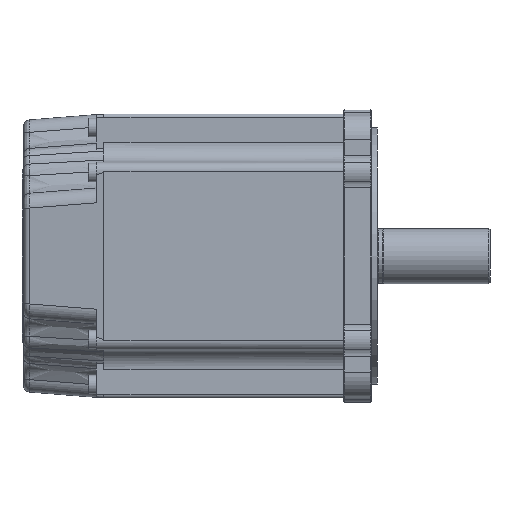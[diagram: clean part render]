
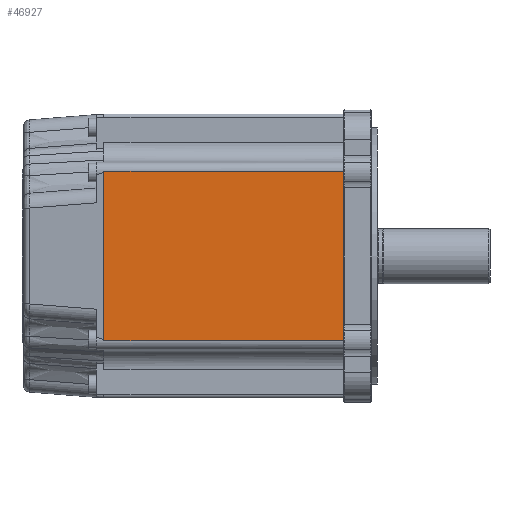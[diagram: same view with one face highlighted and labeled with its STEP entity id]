
A CAD part, front view. The second image highlights one B-rep face of the part: STEP entity #46927.
In plain terms, the highlighted planar face has unit normal (0, -1, 0).
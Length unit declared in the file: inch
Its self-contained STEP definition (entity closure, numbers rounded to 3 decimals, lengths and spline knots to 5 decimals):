
#6816 = CARTESIAN_POINT ( 'NONE',  ( -5.17, -2.825, -2.825 ) ) ;
#11452 = EDGE_CURVE ( 'NONE', #119009, #102239, #35070, .T. ) ;
#16754 = LINE ( 'NONE', #55876, #51327 ) ;
#19897 = DIRECTION ( 'NONE',  ( 0., 0., 1. ) ) ;
#22821 = CARTESIAN_POINT ( 'NONE',  ( -5.32, -2.825, 1.6825 ) ) ;
#22936 = AXIS2_PLACEMENT_3D ( 'NONE', #6816, #97892, #19897 ) ;
#27394 = DIRECTION ( 'NONE',  ( 0., 0., 1. ) ) ;
#30801 = VECTOR ( 'NONE', #27394, 39.37008 ) ;
#35070 = LINE ( 'NONE', #47201, #65589 ) ;
#39336 = ORIENTED_EDGE ( 'NONE', *, *, #162762, .F. ) ;
#45516 = CARTESIAN_POINT ( 'NONE',  ( -0.55, -2.825, -1.42892 ) ) ;
#46927 = ADVANCED_FACE ( 'NONE', ( #151362 ), #97319, .F. ) ;
#47201 = CARTESIAN_POINT ( 'NONE',  ( -0.55, -2.825, -1.6825 ) ) ;
#51327 = VECTOR ( 'NONE', #68975, 39.37008 ) ;
#51625 = DIRECTION ( 'NONE',  ( 0., 0., 1. ) ) ;
#51840 = VECTOR ( 'NONE', #51625, 39.37008 ) ;
#54578 = EDGE_CURVE ( 'NONE', #102239, #75349, #164217, .T. ) ;
#55876 = CARTESIAN_POINT ( 'NONE',  ( -0.55, -2.825, -2.825 ) ) ;
#63455 = CARTESIAN_POINT ( 'NONE',  ( -5.32, -2.825, -1.6825 ) ) ;
#64251 = VECTOR ( 'NONE', #66475, 39.37008 ) ;
#65589 = VECTOR ( 'NONE', #73366, 39.37008 ) ;
#66475 = DIRECTION ( 'NONE',  ( 0., 0., 1. ) ) ;
#68975 = DIRECTION ( 'NONE',  ( 0., 0., 1. ) ) ;
#72431 = VERTEX_POINT ( 'NONE', #22821 ) ;
#73366 = DIRECTION ( 'NONE',  ( 1., 0., 0. ) ) ;
#75349 = VERTEX_POINT ( 'NONE', #45516 ) ;
#75555 = ORIENTED_EDGE ( 'NONE', *, *, #77841, .T. ) ;
#77841 = EDGE_CURVE ( 'NONE', #75349, #99956, #134751, .T. ) ;
#81300 = DIRECTION ( 'NONE',  ( -1., 0., 0. ) ) ;
#89820 = CARTESIAN_POINT ( 'NONE',  ( -5.32, -2.825, -1.6825 ) ) ;
#93366 = ORIENTED_EDGE ( 'NONE', *, *, #11452, .T. ) ;
#97319 = PLANE ( 'NONE',  #22936 ) ;
#97892 = DIRECTION ( 'NONE',  ( 0., 1., 0. ) ) ;
#99956 = VERTEX_POINT ( 'NONE', #161315 ) ;
#102239 = VERTEX_POINT ( 'NONE', #156597 ) ;
#114317 = EDGE_LOOP ( 'NONE', ( #157281, #75555, #130737, #145845, #39336, #93366 ) ) ;
#115919 = LINE ( 'NONE', #133742, #150575 ) ;
#119009 = VERTEX_POINT ( 'NONE', #63455 ) ;
#121166 = LINE ( 'NONE', #89820, #51840 ) ;
#130473 = CARTESIAN_POINT ( 'NONE',  ( -0.55, -2.825, -2.825 ) ) ;
#130737 = ORIENTED_EDGE ( 'NONE', *, *, #151043, .T. ) ;
#130859 = CARTESIAN_POINT ( 'NONE',  ( -0.55, -2.825, -2.825 ) ) ;
#133742 = CARTESIAN_POINT ( 'NONE',  ( -5.17, -2.825, 1.6825 ) ) ;
#134751 = LINE ( 'NONE', #130473, #30801 ) ;
#145845 = ORIENTED_EDGE ( 'NONE', *, *, #161006, .T. ) ;
#150575 = VECTOR ( 'NONE', #81300, 39.37008 ) ;
#151043 = EDGE_CURVE ( 'NONE', #99956, #154705, #16754, .T. ) ;
#151362 = FACE_OUTER_BOUND ( 'NONE', #114317, .T. ) ;
#154705 = VERTEX_POINT ( 'NONE', #167645 ) ;
#156597 = CARTESIAN_POINT ( 'NONE',  ( -0.55, -2.825, -1.6825 ) ) ;
#157281 = ORIENTED_EDGE ( 'NONE', *, *, #54578, .T. ) ;
#161006 = EDGE_CURVE ( 'NONE', #154705, #72431, #115919, .T. ) ;
#161315 = CARTESIAN_POINT ( 'NONE',  ( -0.55, -2.825, 1.42892 ) ) ;
#162762 = EDGE_CURVE ( 'NONE', #119009, #72431, #121166, .T. ) ;
#164217 = LINE ( 'NONE', #130859, #64251 ) ;
#167645 = CARTESIAN_POINT ( 'NONE',  ( -0.55, -2.825, 1.6825 ) ) ;
